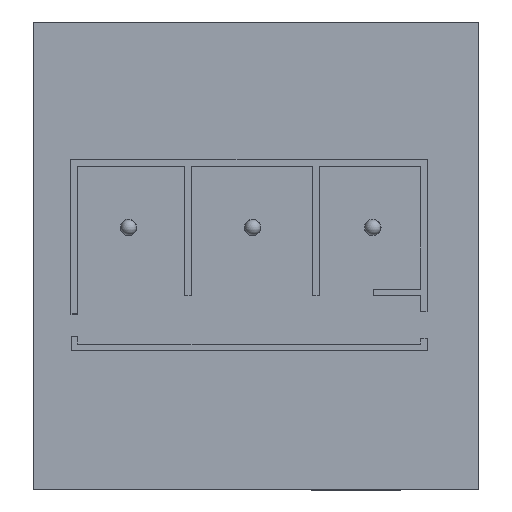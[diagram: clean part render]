
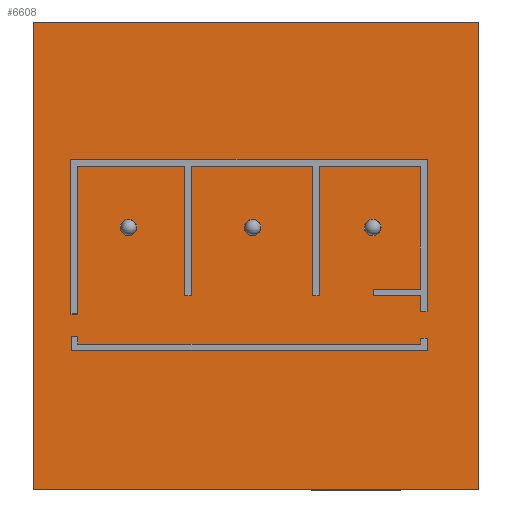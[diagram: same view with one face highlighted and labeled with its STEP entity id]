
A CAD part, top view. The second image highlights one B-rep face of the part: STEP entity #6608.
In plain terms, the highlighted planar face has unit normal (0, 0, 1).
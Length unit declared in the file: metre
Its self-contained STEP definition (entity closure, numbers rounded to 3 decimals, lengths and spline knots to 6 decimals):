
#93=CIRCLE('',#7165,0.00375);
#94=CIRCLE('',#7166,0.00375);
#95=CIRCLE('',#7167,0.00375);
#1051=ORIENTED_EDGE('',*,*,#2497,.F.);
#1052=ORIENTED_EDGE('',*,*,#2498,.F.);
#1053=ORIENTED_EDGE('',*,*,#2499,.F.);
#1054=ORIENTED_EDGE('',*,*,#2487,.F.);
#1055=ORIENTED_EDGE('',*,*,#2491,.T.);
#1056=ORIENTED_EDGE('',*,*,#2494,.T.);
#1057=ORIENTED_EDGE('',*,*,#2496,.F.);
#2487=EDGE_CURVE('',#3285,#3286,#3997,.T.);
#2491=EDGE_CURVE('',#3285,#3288,#4001,.T.);
#2494=EDGE_CURVE('',#3288,#3290,#4004,.T.);
#2496=EDGE_CURVE('',#3286,#3290,#4006,.T.);
#2497=EDGE_CURVE('',#3291,#3291,#93,.T.);
#2498=EDGE_CURVE('',#3292,#3292,#94,.T.);
#2499=EDGE_CURVE('',#3293,#3293,#95,.T.);
#3285=VERTEX_POINT('',#9968);
#3286=VERTEX_POINT('',#9970);
#3288=VERTEX_POINT('',#9976);
#3290=VERTEX_POINT('',#9982);
#3291=VERTEX_POINT('',#9989);
#3292=VERTEX_POINT('',#9991);
#3293=VERTEX_POINT('',#9993);
#3997=LINE('',#9969,#4875);
#4001=LINE('',#9977,#4879);
#4004=LINE('',#9983,#4882);
#4006=LINE('',#9986,#4884);
#4875=VECTOR('',#8150,1.);
#4879=VECTOR('',#8156,1.);
#4882=VECTOR('',#8161,1.);
#4884=VECTOR('',#8165,1.);
#5555=EDGE_LOOP('',(#1051));
#5556=EDGE_LOOP('',(#1052));
#5557=EDGE_LOOP('',(#1053));
#5558=EDGE_LOOP('',(#1054,#1055,#1056,#1057));
#5927=FACE_BOUND('',#5555,.T.);
#5928=FACE_BOUND('',#5556,.T.);
#5929=FACE_BOUND('',#5557,.T.);
#5930=FACE_BOUND('',#5558,.T.);
#6265=PLANE('',#7164);
#6608=ADVANCED_FACE('',(#5927,#5928,#5929,#5930),#6265,.T.);
#7164=AXIS2_PLACEMENT_3D('',#9987,#8166,#8167);
#7165=AXIS2_PLACEMENT_3D('',#9988,#8168,#8169);
#7166=AXIS2_PLACEMENT_3D('',#9990,#8170,#8171);
#7167=AXIS2_PLACEMENT_3D('',#9992,#8172,#8173);
#8150=DIRECTION('',(1.,0.,0.));
#8156=DIRECTION('',(0.,-1.,0.));
#8161=DIRECTION('',(1.,0.,0.));
#8165=DIRECTION('',(0.,-1.,0.));
#8166=DIRECTION('',(0.,0.,1.));
#8167=DIRECTION('',(1.,0.,0.));
#8168=DIRECTION('',(0.,0.,1.));
#8169=DIRECTION('',(1.,0.,0.));
#8170=DIRECTION('',(0.,0.,1.));
#8171=DIRECTION('',(1.,0.,0.));
#8172=DIRECTION('',(0.,0.,1.));
#8173=DIRECTION('',(1.,0.,0.));
#9968=CARTESIAN_POINT('',(-0.1,0.105,0.005));
#9969=CARTESIAN_POINT('',(0.,0.105,0.005));
#9970=CARTESIAN_POINT('',(0.1,0.105,0.005));
#9976=CARTESIAN_POINT('',(-0.1,-0.105,0.005));
#9977=CARTESIAN_POINT('',(-0.1,0.,0.005));
#9982=CARTESIAN_POINT('',(0.1,-0.105,0.005));
#9983=CARTESIAN_POINT('',(0.,-0.105,0.005));
#9986=CARTESIAN_POINT('',(0.1,0.,0.005));
#9987=CARTESIAN_POINT('',(0.,0.,0.005));
#9988=CARTESIAN_POINT('',(-0.057289,0.012656,0.005));
#9989=CARTESIAN_POINT('',(-0.053539,0.012656,0.005));
#9990=CARTESIAN_POINT('',(-0.001516,0.012656,0.005));
#9991=CARTESIAN_POINT('',(0.002234,0.012656,0.005));
#9992=CARTESIAN_POINT('',(0.05242,0.012656,0.005));
#9993=CARTESIAN_POINT('',(0.05617,0.012656,0.005));
